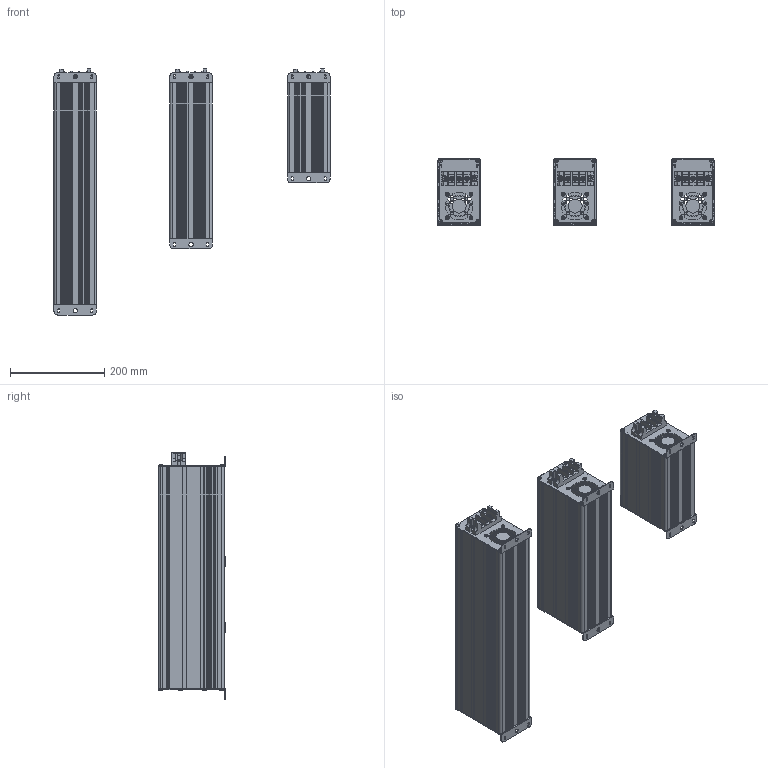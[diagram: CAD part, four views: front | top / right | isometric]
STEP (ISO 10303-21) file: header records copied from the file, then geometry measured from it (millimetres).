
FILE_DESCRIPTION(/* description */ (''),/* implementation_level */ '2;1');
FILE_NAME(/* name */ 'D:\[ $ 고부하용 배터리 3D $ ]\CV\CV190,330,470.stp',/* time_stamp */ '2019-05-08T15:22:03+09:00',/* author */ ('82102'),/* organization */ (''),/* preprocessor_version */ 'ST-DEVELOPER v17',/* originating_system */ 'Autodesk Inventor 2019',/* authorisation */ '');
FILE_SCHEMA (('AUTOMOTIVE_DESIGN { 1 0 10303 214 3 1 1 }'));
Length unit declared in the file: millimetre
Products named in the file (14): CV190,330,470; CV190; profile 190; CV330; profile 330; CV470; profile 470; LEFT; RIGHT; 단자대 TB_BI-16PTHC; 트러스머리_M5_10; M5 볼트; 접시머리_M4_9; 트러스머리_M4_10
Assembly tree (78 placements, depth 3):
  CV190,330,470
    CV190
      profile 190
      LEFT
      RIGHT
      단자대 TB_BI-16PTHC
      트러스머리_M5_10  x2
      트러스머리_M4_10  x8
      M5 볼트  x3
      접시머리_M4_9  x8
    CV330
      profile 330
      LEFT
      RIGHT
      단자대 TB_BI-16PTHC
      트러스머리_M5_10  x2
      트러스머리_M4_10  x8
      M5 볼트  x3
      접시머리_M4_9  x8
    CV470
      profile 470
      LEFT
      RIGHT
      단자대 TB_BI-16PTHC
      트러스머리_M5_10  x2
      트러스머리_M4_10  x8
      M5 볼트  x3
      접시머리_M4_9  x8
Bounding box: 585.19 x 142 x 521.5 mm (x, y, z)
Volume: 1517942.3 mm3; surface area: 1235738.1 mm2
Topology: 78 solids, 78 shells, 3009 faces, 8412 edges, 5670 vertices
Faces by surface type: plane 1701, cylinder 1176, torus 54, cone 48, bspline 30
Full cylindrical faces by diameter (mm): 3.8 x24, 4.3 x12, 4.5 x24, 4.8 x24, 5 x33, 5.5 x27, 8.4 x24, 8.584 x9, 8.6 x9, 8.8 x24, 9 x6, 9.2 x6
Entity records: 38893 total; most frequent: CARTESIAN_POINT 7053, DIRECTION 6618, ORIENTED_EDGE 6558, EDGE_CURVE 3279, LINE 2302, VECTOR 2302, VERTEX_POINT 2191, AXIS2_PLACEMENT_3D 2158
